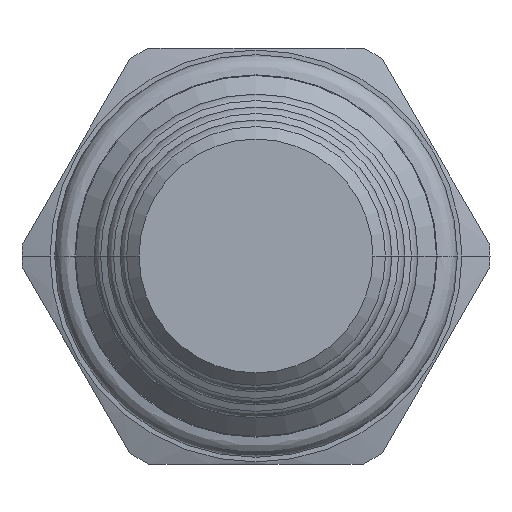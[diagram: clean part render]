
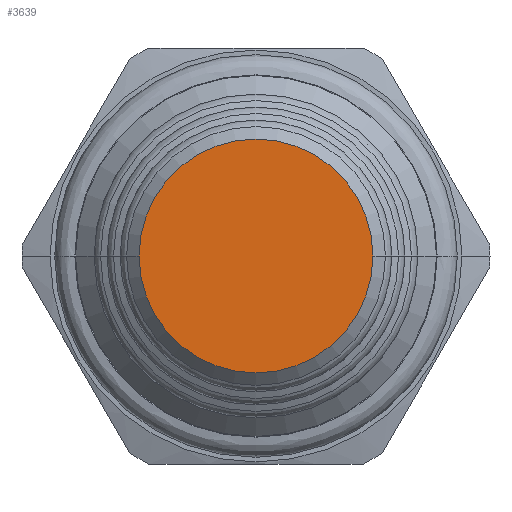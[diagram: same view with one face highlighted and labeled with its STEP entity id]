
A CAD part, front view. The second image highlights one B-rep face of the part: STEP entity #3639.
In plain terms, the highlighted planar face has unit normal (0, -1, 0).
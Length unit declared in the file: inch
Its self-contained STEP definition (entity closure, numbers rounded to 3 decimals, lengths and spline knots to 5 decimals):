
#1357=CARTESIAN_POINT('',(0.,-2.4385,0.));
#1358=DIRECTION('',(0.,1.,0.));
#1359=DIRECTION('',(1.,0.,0.));
#1360=AXIS2_PLACEMENT_3D('',#1357,#1358,#1359);
#1375=CARTESIAN_POINT('',(0.,-2.4385,0.));
#1376=DIRECTION('',(0.,1.,0.));
#1377=DIRECTION('',(-1.,0.,0.));
#1378=AXIS2_PLACEMENT_3D('',#1375,#1376,#1377);
#1543=CARTESIAN_POINT('',(-0.281,-2.4385,0.));
#1544=CARTESIAN_POINT('',(0.281,-2.4385,0.));
#1545=VERTEX_POINT('',#1543);
#1546=VERTEX_POINT('',#1544);
#3629=CARTESIAN_POINT('',(0.,-2.4385,0.));
#3630=DIRECTION('',(0.,1.,0.));
#3631=DIRECTION('',(1.,0.,0.));
#3632=AXIS2_PLACEMENT_3D('',#3629,#3630,#3631);
#3633=PLANE('',#3632);
#3634=ORIENTED_EDGE('',*,*,#3619,.T.);
#3636=ORIENTED_EDGE('',*,*,#3635,.T.);
#3637=EDGE_LOOP('',(#3634,#3636));
#3638=FACE_OUTER_BOUND('',#3637,.F.);
#3639=ADVANCED_FACE('',(#3638),#3633,.F.);
#1361=CIRCLE('',#1360,0.281);
#1379=CIRCLE('',#1378,0.281);
#3619=EDGE_CURVE('',#1546,#1545,#1361,.T.);
#3635=EDGE_CURVE('',#1545,#1546,#1379,.T.);
